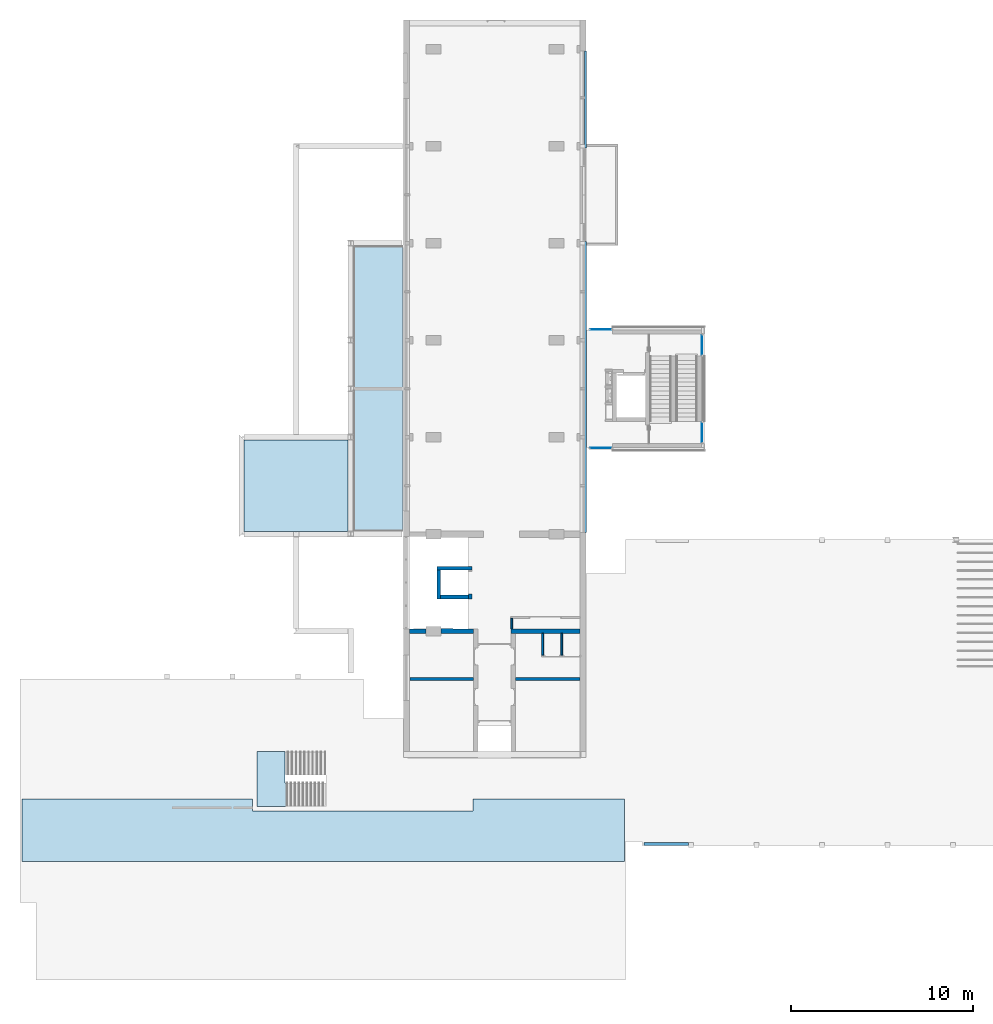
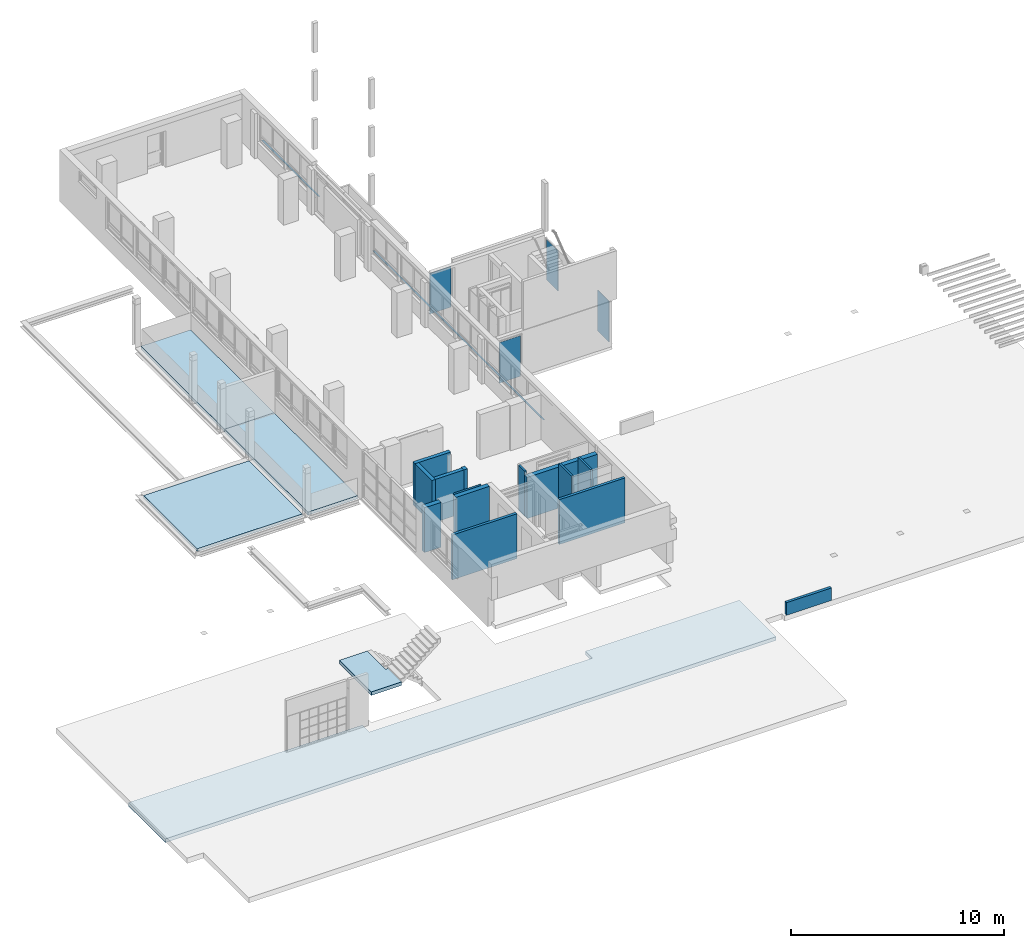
# One storey, part 3 of 22: 13 walls, 5 slabs, 4 plates, 2 beams, 5 elements without a shape of their own.
"""IFC2X3 building model written with IfcOpenShell, lengths in millimetres."""

from ifc_helpers import new_model, entity, si_unit, converted_unit, derived_unit, money_unit, direction, frame, origin_with_axes, place, context, subcontext, project, spatial, faceted_brep, source, transform, mapped, material, type_object, type_shapes, element, aggregate, save


model = new_model("IFC2X3")

# Units and contexts
model_context = context("Model", 3, precision=0.01, world=origin_with_axes(), true_north=direction((0.0, 1.0)))
body_context = subcontext(model_context, "Body", "Model", "MODEL_VIEW")
ifc_project = project(units=[si_unit("LENGTHUNIT", "METRE", prefix="MILLI"), si_unit("AREAUNIT", "SQUARE_METRE"), si_unit("VOLUMEUNIT", "CUBIC_METRE"), converted_unit("PLANEANGLEUNIT", "DEGREE", entity("IfcPlaneAngleMeasure", 0.0174532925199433), si_unit("PLANEANGLEUNIT", "RADIAN"), dimensions=[0, 0, 0, 0, 0, 0, 0]), money_unit("EUR"), converted_unit("TIMEUNIT", "Year", entity("IfcTimeMeasure", 31557600.0), si_unit("TIMEUNIT", "SECOND"), dimensions=[0, 0, 1, 0, 0, 0, 0]), si_unit("MASSUNIT", "GRAM", prefix="KILO"), si_unit("THERMODYNAMICTEMPERATUREUNIT", "DEGREE_CELSIUS"), si_unit("LUMINOUSINTENSITYUNIT", "LUMEN"), si_unit("ENERGYUNIT", "JOULE", prefix="MEGA"), derived_unit("THERMALCONDUCTANCEUNIT", [(si_unit("POWERUNIT", "WATT"), 1), (si_unit("LENGTHUNIT", "METRE"), -1), (si_unit("THERMODYNAMICTEMPERATUREUNIT", "KELVIN"), -1)]), derived_unit("SPECIFICHEATCAPACITYUNIT", [(si_unit("ENERGYUNIT", "JOULE"), 1), (si_unit("MASSUNIT", "GRAM", prefix="KILO"), -1), (si_unit("THERMODYNAMICTEMPERATUREUNIT", "KELVIN"), -1)]), derived_unit("MASSDENSITYUNIT", [(si_unit("MASSUNIT", "GRAM", prefix="KILO"), 1), (si_unit("VOLUMEUNIT", "CUBIC_METRE"), -1)])], contexts=[model_context])

# Site, building, storey
site_placement = place(None, origin_with_axes())
site = spatial("IfcSite", under=ifc_project, at=site_placement, Name="Site", CompositionType="ELEMENT")
building_placement = place(site_placement, origin_with_axes())
building = spatial("IfcBuilding", under=site, at=building_placement, Name="Naam gebouw", CompositionType="ELEMENT")
storey_placement = place(building_placement, frame((0.0, 0.0, 8690.0), z_axis=(0.0, 0.0, 1.0), x_axis=(1.0, 0.0, 0.0)))
storey = spatial("IfcBuildingStorey", under=building, at=storey_placement, Name="2e verdieping V", CompositionType="ELEMENT", Elevation=8690.0)

# Beams
ifc_material_1 = material(Name="Metaal - Aluminium")
beam_type = type_object("IfcBeamType", Name="Lekdorpel 107 x 49", PredefinedType="BEAM")
beam_1_placement = place(storey_placement, frame((30236.0, 49175.91242510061, 849.9999999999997), z_axis=(0.0, 0.0, 1.0), x_axis=(1.0, 0.0, 0.0)))
element("IfcBeam", 1, at=beam_1_placement, inside=storey, type_object=beam_type, material=ifc_material_1, Name="_Balk-x", ObjectType="BEAM", context=body_context, shape_type="Brep", body=[
    faceted_brep([(27.99999999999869, 0.0, -1.678199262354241), (27.99999999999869, 5329.999999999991, -1.678199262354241), (27.99999999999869, 5329.999999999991, -16.53589838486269), (27.99999999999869, 0.0, -16.53589838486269), (-77.00000000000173, 0.0, 16.83613371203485), (-77.00000000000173, 5329.999999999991, 16.83613371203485), (-77.00000000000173, 5329.999999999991, 28.51433297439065), (-74.99999999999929, 5329.999999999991, 28.51433297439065), (-74.99999999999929, 5329.999999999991, 18.51433297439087), (30.00000000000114, 5329.999999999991, 0.0), (30.00000000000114, 5329.999999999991, -19.99999999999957), (19.99999999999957, 5329.999999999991, -14.22649730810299), (19.99999999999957, 5329.999999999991, -11.91709623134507), (19.99999999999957, 0.0, -11.91709623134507), (19.99999999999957, 0.0, -14.22649730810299), (30.00000000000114, 0.0, -19.99999999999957), (30.00000000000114, 0.0, 0.0), (-74.99999999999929, 0.0, 18.51433297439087), (-74.99999999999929, 0.0, 28.51433297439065), (-77.00000000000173, 0.0, 28.51433297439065)], [[[0, 1, 2, 3]], [[4, 5, 1, 0]], [[2, 1, 5, 6, 7, 8, 9, 10, 11, 12]], [[3, 2, 12, 13]], [[4, 0, 3, 13, 14, 15, 16, 17, 18, 19]], [[19, 6, 5, 4]], [[18, 7, 6, 19]], [[17, 8, 7, 18]], [[16, 9, 8, 17]], [[15, 10, 9, 16]], [[14, 11, 10, 15]], [[13, 12, 11, 14]]]),
])
beam_2_placement = place(storey_placement, frame((30236.0, 28055.91242510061, 849.9999999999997), z_axis=(0.0, 0.0, 1.0), x_axis=(1.0, 0.0, 0.0)))
element("IfcBeam", 2, at=beam_2_placement, inside=storey, type_object=beam_type, material=ifc_material_1, Name="_Balk-x", ObjectType="BEAM", context=body_context, shape_type="Brep", body=[
    faceted_brep([(27.99999999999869, 0.0, -1.678199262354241), (27.99999999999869, 15989.99999999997, -1.678199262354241), (27.99999999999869, 15989.99999999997, -16.53589838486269), (27.99999999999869, 0.0, -16.53589838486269), (-77.00000000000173, 0.0, 16.83613371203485), (-77.00000000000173, 15989.99999999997, 16.83613371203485), (-77.00000000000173, 15989.99999999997, 28.51433297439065), (-74.99999999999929, 15989.99999999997, 28.51433297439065), (-74.99999999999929, 15989.99999999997, 18.51433297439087), (30.00000000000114, 15989.99999999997, 0.0), (30.00000000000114, 15989.99999999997, -19.99999999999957), (19.99999999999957, 15989.99999999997, -14.22649730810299), (19.99999999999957, 15989.99999999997, -11.91709623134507), (19.99999999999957, 0.0, -11.91709623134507), (19.99999999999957, 0.0, -14.22649730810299), (30.00000000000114, 0.0, -19.99999999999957), (30.00000000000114, 0.0, 0.0), (-74.99999999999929, 0.0, 18.51433297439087), (-74.99999999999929, 0.0, 28.51433297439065), (-77.00000000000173, 0.0, 28.51433297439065)], [[[0, 1, 2, 3]], [[4, 5, 1, 0]], [[2, 1, 5, 6, 7, 8, 9, 10, 11, 12]], [[3, 2, 12, 13]], [[4, 0, 3, 13, 14, 15, 16, 17, 18, 19]], [[19, 6, 5, 4]], [[18, 7, 6, 19]], [[17, 8, 7, 18]], [[16, 9, 8, 17]], [[15, 10, 9, 16]], [[14, 11, 10, 15]], [[13, 12, 11, 14]]]),
])

# Curtain wall, plate
curtain_wall_type = type_object("IfcCurtainWallType", Name="Curtain Wall:21_CW_alu kozijn 070x065", PredefinedType="NOTDEFINED")
curtain_wall_1_placement = place(storey_placement, frame((0.0, 0.0, -8690.0), z_axis=(0.0, 0.0, 1.0), x_axis=(1.0, 0.0, 0.0)))
curtain_wall_1 = element("IfcCurtainWall", 3, at=curtain_wall_1_placement, inside=storey, type_object=curtain_wall_type, Name="Curtain Wall:21_CW_alu kozijn 070x065", ObjectType="Curtain Wall:21_CW_alu kozijn 070x065")
ifc_material_2 = material(Name="Glass")
plate_type_1 = type_object("IfcPlateType", Name="System Panel:31_CWP_alu glas_2", PredefinedType="CURTAIN_PANEL")
shared_shape_1 = source(origin_with_axes(), body_context, "Body", "Brep", [
    faceted_brep([(540.0000000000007, -12.00000000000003, 0.0), (540.0000000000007, 11.99999999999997, 0.0), (540.0000000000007, 11.99999999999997, 2330.000000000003), (540.0000000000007, -12.00000000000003, 2330.000000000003), (-540.0000000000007, -11.99999999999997, 0.0), (-540.0000000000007, 12.00000000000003, 0.0), (-540.0000000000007, 12.00000000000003, 2330.000000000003), (-540.0000000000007, -11.99999999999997, 2330.000000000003)], [[[0, 1, 2, 3]], [[0, 4, 5, 1]], [[1, 5, 6, 2]], [[3, 2, 6, 7]], [[4, 0, 3, 7]], [[5, 4, 7, 6]]]),
])
type_shapes(plate_type_1, [shared_shape_1])
plate_1_placement = place(curtain_wall_1_placement, frame((36612.50000004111, 33535.912426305, 8760.000000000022), z_axis=(0.0, 0.0, 1.0), x_axis=(0.0, -1.0, 0.0)))
plate_1 = element("IfcPlate", 4, at=plate_1_placement, type_object=plate_type_1, material=ifc_material_2, Name="System Panel:31_CWP_alu glas_2", ObjectType="CURTAIN_PANEL", context=body_context, shape_type="MappedRepresentation", body=[
    mapped(shared_shape_1, transform((0.0, 0.0, 0.0))),
])
aggregate(curtain_wall_1, [plate_1])

curtain_wall_2_placement = place(storey_placement, frame((0.0, 0.0, -8690.0), z_axis=(0.0, 0.0, 1.0), x_axis=(1.0, 0.0, 0.0)))
curtain_wall_2 = element("IfcCurtainWall", 5, at=curtain_wall_2_placement, inside=storey, type_object=curtain_wall_type, Name="Curtain Wall:21_CW_alu kozijn 070x065", ObjectType="Curtain Wall:21_CW_alu kozijn 070x065")
plate_2_placement = place(curtain_wall_2_placement, frame((36612.50000001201, 38355.91242625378, 8760.000000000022), z_axis=(0.0, 0.0, 1.0), x_axis=(0.0, -1.0, 0.0)))
plate_2 = element("IfcPlate", 6, at=plate_2_placement, type_object=plate_type_1, material=ifc_material_2, Name="System Panel:31_CWP_alu glas_2", ObjectType="CURTAIN_PANEL", context=body_context, shape_type="MappedRepresentation", body=[
    mapped(shared_shape_1, transform((0.0, 0.0, 0.0))),
])
aggregate(curtain_wall_2, [plate_2])

curtain_wall_3_placement = place(storey_placement, frame((0.0, 0.0, -8690.0), z_axis=(0.0, 0.0, 1.0), x_axis=(1.0, 0.0, 0.0)))
curtain_wall_3 = element("IfcCurtainWall", 7, at=curtain_wall_3_placement, inside=storey, type_object=curtain_wall_type, Name="Curtain Wall:21_CW_alu kozijn 070x065", ObjectType="Curtain Wall:21_CW_alu kozijn 070x065")
plate_type_2 = type_object("IfcPlateType", Name="System Panel:31_CWP_alu glas_2", PredefinedType="CURTAIN_PANEL")
shared_shape_2 = source(origin_with_axes(), body_context, "Body", "Brep", [
    faceted_brep([(577.0051413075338, -12.00000000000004, 0.0), (577.0051413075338, 11.99999999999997, 0.0), (577.0051413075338, 11.99999999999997, 2330.000000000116), (577.0051413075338, -12.00000000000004, 2330.000000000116), (-577.0051413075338, -11.99999999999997, 0.0), (-577.0051413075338, 12.00000000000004, 0.0), (-577.0051413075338, 12.00000000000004, 2330.000000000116), (-577.0051413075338, -11.99999999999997, 2330.000000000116)], [[[0, 1, 2, 3]], [[0, 4, 5, 1]], [[1, 5, 6, 2]], [[3, 2, 6, 7]], [[4, 0, 3, 7]], [[5, 4, 7, 6]]]),
])
type_shapes(plate_type_2, [shared_shape_2])
plate_3_placement = place(curtain_wall_3_placement, frame((31038.00514136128, 39212.4124263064, 8760.000000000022), z_axis=(0.0, 0.0, 1.0), x_axis=(-1.0, 0.0, 0.0)))
plate_3 = element("IfcPlate", 8, at=plate_3_placement, type_object=plate_type_2, material=ifc_material_2, Name="System Panel:31_CWP_alu glas_2", ObjectType="CURTAIN_PANEL", context=body_context, shape_type="MappedRepresentation", body=[
    mapped(shared_shape_2, transform((0.0, 0.0, 0.0))),
])
aggregate(curtain_wall_3, [plate_3])

curtain_wall_4_placement = place(storey_placement, frame((0.0, 0.0, -8690.0), z_axis=(0.0, 0.0, 1.0), x_axis=(1.0, 0.0, 0.0)))
curtain_wall_4 = element("IfcCurtainWall", 9, at=curtain_wall_4_placement, inside=storey, type_object=curtain_wall_type, Name="Curtain Wall:21_CW_alu kozijn 070x065", ObjectType="Curtain Wall:21_CW_alu kozijn 070x065")
plate_type_3 = type_object("IfcPlateType", Name="System Panel:31_CWP_alu glas_2", PredefinedType="CURTAIN_PANEL")
type_shapes(plate_type_3, [shared_shape_2])
plate_4_placement = place(curtain_wall_4_placement, frame((31038.00514136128, 32679.41242631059, 8760.000000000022), z_axis=(0.0, 0.0, 1.0), x_axis=(-1.0, 0.0, 0.0)))
plate_4 = element("IfcPlate", 10, at=plate_4_placement, type_object=plate_type_3, material=ifc_material_2, Name="System Panel:31_CWP_alu glas_2", ObjectType="CURTAIN_PANEL", context=body_context, shape_type="MappedRepresentation", body=[
    mapped(shared_shape_2, transform((0.0, 0.0, 0.0))),
])
aggregate(curtain_wall_4, [plate_4])

# Slab
ifc_material_3 = material(Name="ALG - CONSTRUCTIEF VLOER")
slab_type_1 = type_object("IfcSlabType", Name="ALG Vloer 200", PredefinedType="NOTDEFINED")
slab_1_placement = place(storey_placement, frame((12155.50051848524, 12994.60803964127, 710.0000000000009), z_axis=(0.0, 0.0, 1.0), x_axis=(1.0, 0.0, 0.0)))
element("IfcSlab", 11, at=slab_1_placement, inside=storey, type_object=slab_type_1, material=ifc_material_3, Name="_Vloer-x", PredefinedType="NOTDEFINED", context=body_context, shape_type="Brep", body=[
    faceted_brep([(0.0, 0.0, 0.0), (0.0, 0.0, -199.9999999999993), (1643.1, 0.0, -199.9999999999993), (1643.1, 0.0, 0.0), (0.0, 3001.31222034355, 0.0), (0.0, 3001.31222034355, -199.9999999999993), (1514.999999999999, 3001.31222034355, -199.9999999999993), (1514.999999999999, 1279.999999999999, -199.9999999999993), (1643.1, 1279.999999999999, -199.9999999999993), (1643.1, 1279.999999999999, 0.0), (1514.999999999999, 1279.999999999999, 0.0), (1514.999999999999, 3001.31222034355, 0.0)], [[[0, 1, 2, 3]], [[4, 5, 1, 0]], [[2, 1, 5, 6, 7, 8]], [[3, 2, 8, 9]], [[4, 0, 3, 9, 10, 11]], [[11, 6, 5, 4]], [[10, 7, 6, 11]], [[9, 8, 7, 10]]]),
])

# Roof, slab
roof_placement = place(storey_placement, frame((0.0, 0.0, -8690.0), z_axis=(0.0, 0.0, 1.0), x_axis=(1.0, 0.0, 0.0)))
roof = element("IfcRoof", 12, at=roof_placement, inside=storey, Name="Basic Roof:NLRS_27_RO_dakleer iso 164 2-2-160_gen", ObjectType="Basic Roof:NLRS_27_RO_dakleer iso 164 2-2-160_gen", ShapeType="NOTDEFINED")
ifc_material_4 = material(Name="IFC Building Material")
slab_type_2 = type_object("IfcSlabType", Name="IFC Building Material 164", PredefinedType="ROOF")
slab_2_placement = place(roof_placement, frame((17142.0000000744, 30620.91242626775, 8530.000000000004), z_axis=(0.0, 0.0, 1.0), x_axis=(-1.0, 0.0, 0.0)))
slab_2 = element("IfcSlab", 13, at=slab_2_placement, type_object=slab_type_2, material=ifc_material_4, Name="Basic Roof:NLRS_27_RO_dakleer iso 164 2-2-160_gen", PredefinedType="ROOF", context=body_context, shape_type="Brep", body=[
    faceted_brep([(2.91038304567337e-08, -2515.00000001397, 163.9999999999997), (2.91038304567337e-08, -2515.00000001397, 0.0), (5700.000000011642, -2515.00000001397, 0.0), (5700.000000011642, -2515.00000001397, 163.9999999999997), (2.91038304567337e-08, 2515.00000001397, 163.9999999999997), (2.91038304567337e-08, 2515.00000001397, 0.0), (5700.000000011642, 2515.00000001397, 0.0), (5700.000000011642, 2515.00000001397, 163.9999999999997)], [[[0, 1, 2, 3]], [[4, 5, 1, 0]], [[2, 1, 5, 6]], [[3, 2, 6, 7]], [[4, 0, 3, 7]], [[7, 6, 5, 4]]]),
])
aggregate(roof, [slab_2])

# Slabs
ifc_material_5 = material(Name="beton")
slab_type_3 = type_object("IfcSlabType", Name="Floor:23_3B_beton 170mm + 50mm metal deck", PredefinedType="FLOOR")
slab_3_placement = place(storey_placement, frame((20141.00000002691, 43795.91242631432, 0.0), z_axis=(0.0, 0.0, 1.0), x_axis=(1.0, 0.0, 0.0)))
element("IfcSlab", 14, at=slab_3_placement, inside=storey, type_object=slab_type_3, material=ifc_material_5, Name="Floor:23_3B_beton 170mm + 50mm metal deck", PredefinedType="FLOOR", context=body_context, shape_type="Brep", body=[
    faceted_brep([(0.0, 0.0, 0.0), (0.0, 0.0, -169.9999999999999), (-2698.999999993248, 0.0, -169.9999999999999), (-2698.999999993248, 0.0, 0.0), (-2.91038304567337e-08, -7845.000000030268, 0.0), (-2.91038304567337e-08, -7845.000000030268, -169.9999999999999), (-2698.999999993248, -7844.99999997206, -169.9999999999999), (-2698.999999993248, -7844.99999997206, 0.0)], [[[0, 1, 2, 3]], [[4, 5, 1, 0]], [[2, 1, 5, 6]], [[3, 2, 6, 7]], [[4, 0, 3, 7]], [[7, 6, 5, 4]]]),
])
slab_4_placement = place(storey_placement, frame((20140.9999999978, 35950.91242628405, 0.0), z_axis=(0.0, 0.0, 1.0), x_axis=(1.0, 0.0, 0.0)))
element("IfcSlab", 15, at=slab_4_placement, inside=storey, type_object=slab_type_3, material=ifc_material_5, Name="Floor:23_3B_beton 170mm + 50mm metal deck", PredefinedType="FLOOR", context=body_context, shape_type="Brep", body=[
    faceted_brep([(0.0, 0.0, 0.0), (0.0, 0.0, -169.9999999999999), (-2698.999999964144, 5.820766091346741e-08, -169.9999999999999), (-2698.999999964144, 5.820766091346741e-08, 0.0), (2.91038304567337e-08, -7844.999999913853, 0.0), (2.91038304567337e-08, -7844.999999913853, -169.9999999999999), (-2698.999999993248, -7844.99999997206, -169.9999999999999), (-2698.999999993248, -7844.99999997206, 0.0)], [[[0, 1, 2, 3]], [[4, 5, 1, 0]], [[2, 1, 5, 6]], [[3, 2, 6, 7]], [[4, 0, 3, 7]], [[7, 6, 5, 4]]]),
])
slab_type_4 = type_object("IfcSlabType", Name="ALG - CONSTRUCTIEF VLOER 210", PredefinedType="NOTDEFINED")
slab_5_placement = place(storey_placement, frame((-770.0306878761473, 9945.912425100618, -1339.999999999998), z_axis=(0.0, 0.0, 1.0), x_axis=(1.0, 0.0, 0.0)))
element("IfcSlab", 16, at=slab_5_placement, inside=storey, type_object=slab_type_4, material=ifc_material_3, Name="_Vloer-x", PredefinedType="NOTDEFINED", context=body_context, shape_type="Brep", body=[
    faceted_brep([(0.0, 0.0, 0.0), (0.0, 0.0, -210.0), (33115.50094795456, 0.0, -210.0), (33115.50094795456, 0.0, 0.0), (0.0, 3450.000000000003, 0.0), (0.0, 3450.000000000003, -210.0), (12675.53120636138, 3450.000000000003, -210.0), (12675.53120636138, 2798.695614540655, -210.0), (24773.03068787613, 2798.695614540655, -210.0), (24773.03068787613, 3450.000000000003, -210.0), (33115.50094795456, 3450.000000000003, -210.0), (33115.50094795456, 3450.000000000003, 0.0), (24773.03068787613, 3450.000000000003, 0.0), (24773.03068787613, 2798.695614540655, 0.0), (12675.53120636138, 2798.695614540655, 0.0), (12675.53120636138, 3450.000000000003, 0.0)], [[[0, 1, 2, 3]], [[4, 5, 1, 0]], [[2, 1, 5, 6, 7, 8, 9, 10]], [[3, 2, 10, 11]], [[4, 0, 3, 11, 12, 13, 14, 15]], [[15, 6, 5, 4]], [[14, 7, 6, 15]], [[13, 8, 7, 14]], [[12, 9, 8, 13]], [[11, 10, 9, 12]]]),
])

# Walls
ifc_material_6 = material(Name="ALG - CONSTRUCTIEF")
wall_type_1 = type_object("IfcWallType", Name="ALG - CONSTRUCTIEF 150", PredefinedType="NOTDEFINED")
wall_1_placement = place(storey_placement, frame((24046.0, 19910.73756198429, -99.99999999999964), z_axis=(0.0, 0.0, 1.0), x_axis=(-1.0, 0.0, 0.0)))
element("IfcWall", 17, at=wall_1_placement, inside=storey, type_object=wall_type_1, material=ifc_material_6, Name="_Wand-x", context=body_context, shape_type="Brep", body=[
    faceted_brep([(3501.000000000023, -149.9999999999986, 99.99999999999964), (3501.000000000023, -149.9999999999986, 2670.000000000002), (0.0, -149.9999999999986, 2670.000000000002), (0.0, -149.9999999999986, 99.99999999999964), (3501.000000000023, 0.0, 99.99999999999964), (3501.000000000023, 0.0, 2670.000000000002), (0.0, 0.0, 2670.000000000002), (0.0, 0.0, 99.99999999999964)], [[[0, 1, 2, 3]], [[4, 5, 1, 0]], [[5, 6, 2, 1]], [[3, 2, 6, 7]], [[4, 0, 3, 7]], [[7, 6, 5, 4]]]),
])
wall_2_placement = place(storey_placement, frame((29906.0, 19910.73756198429, 0.0), z_axis=(0.0, 0.0, 1.0), x_axis=(-1.0, 0.0, 0.0)))
element("IfcWall", 18, at=wall_2_placement, inside=storey, type_object=wall_type_1, material=ifc_material_6, Name="_Wand-x", context=body_context, shape_type="Brep", body=[
    faceted_brep([(3559.999999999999, -149.9999999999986, 0.0), (3559.999999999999, -149.9999999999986, 2570.000000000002), (0.0, -149.9999999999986, 2570.000000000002), (0.0, -149.9999999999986, 0.0), (3559.999999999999, 0.0, 0.0), (3559.999999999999, 0.0, 2570.000000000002), (0.0, 0.0, 2570.000000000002), (0.0, 0.0, 0.0)], [[[0, 1, 2, 3]], [[4, 5, 1, 0]], [[5, 6, 2, 1]], [[3, 2, 6, 7]], [[3, 7, 4, 0]], [[7, 6, 5, 4]]]),
])
wall_type_2 = type_object("IfcWallType", Name="ALG - CONSTRUCTIEF 100", PredefinedType="NOTDEFINED")
wall_3_placement = place(storey_placement, frame((26096.0, 22750.91242510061, 0.0), z_axis=(0.0, 0.0, 1.0), x_axis=(0.0, 1.0, 0.0)))
element("IfcWall", 19, at=wall_3_placement, inside=storey, type_object=wall_type_2, material=ifc_material_6, Name="_Wand-x", context=body_context, shape_type="Brep", body=[
    faceted_brep([(574.9999999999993, -99.99999999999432, 2570.000000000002), (574.9999999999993, 0.0, 2570.000000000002), (0.0, 0.0, 2570.000000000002), (0.0, -100.0000000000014, 2570.000000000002), (574.9999999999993, -99.99999999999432, 0.0), (574.9999999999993, 0.0, 0.0), (0.0, 0.0, 0.0), (0.0, -100.0000000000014, 0.0)], [[[0, 1, 2, 3]], [[1, 0, 4, 5]], [[1, 5, 6, 2]], [[7, 3, 2, 6]], [[4, 0, 3, 7]], [[5, 4, 7, 6]]]),
])
wall_4_placement = place(storey_placement, frame((27895.00002228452, 22500.9108279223, 0.0), z_axis=(0.0, 0.0, 1.0), x_axis=(0.0, -1.0, 0.0)))
element("IfcWall", 20, at=wall_4_placement, inside=storey, type_object=wall_type_2, material=ifc_material_6, Name="_Wand-x", context=body_context, shape_type="Brep", body=[
    faceted_brep([(0.0, -100.0000000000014, 0.0), (0.0, -100.0000000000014, 2570.000000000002), (0.0, 0.0, 2570.000000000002), (0.0, 0.0, 0.0), (1200.204171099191, -100.0000000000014, 0.0), (1200.204171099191, -100.0000000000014, 2570.000000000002), (1200.194638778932, 0.0, 2570.000000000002), (1200.194638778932, 0.0, 0.0)], [[[0, 1, 2, 3]], [[4, 5, 1, 0]], [[5, 6, 2, 1]], [[3, 2, 6, 7]], [[3, 7, 4, 0]], [[7, 6, 5, 4]]]),
])
wall_5_placement = place(storey_placement, frame((28945.00000000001, 22501.11659619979, 0.0), z_axis=(0.0, 0.0, 1.0), x_axis=(0.0, -1.0, 0.0)))
element("IfcWall", 21, at=wall_5_placement, inside=storey, type_object=wall_type_2, material=ifc_material_6, Name="_Wand-x", context=body_context, shape_type="Brep", body=[
    faceted_brep([(0.0, -100.0000000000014, 0.0), (0.0, -100.0000000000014, 2570.000000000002), (0.0, 0.0, 2570.000000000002), (0.0, 0.0, 0.0), (1200.204171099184, -100.0000000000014, 0.0), (1200.204171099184, -100.0000000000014, 2570.000000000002), (1200.204171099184, 0.0, 2570.000000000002), (1200.204171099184, 0.0, 0.0)], [[[0, 1, 2, 3]], [[4, 5, 1, 0]], [[5, 6, 2, 1]], [[3, 2, 6, 7]], [[0, 3, 7, 4]], [[7, 6, 5, 4]]]),
])
wall_type_3 = type_object("IfcWallType", Name="ALG - CONSTRUCTIEF 200", PredefinedType="NOTDEFINED")
wall_6_placement = place(storey_placement, frame((22125.0, 26080.91242510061, 0.0), z_axis=(0.0, 0.0, 1.0), x_axis=(0.0, -1.0, 0.0)))
element("IfcWall", 22, at=wall_6_placement, inside=storey, type_object=wall_type_3, material=ifc_material_6, Name="_Wand-x", context=body_context, shape_type="Brep", body=[
    faceted_brep([(100.0000000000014, -100.0000000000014, 0.0), (100.000000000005, -100.0000000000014, 2460.000000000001), (100.000000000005, 100.0000000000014, 2460.000000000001), (100.0000000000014, 100.0000000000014, 0.0), (1684.999974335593, -100.0000000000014, 0.0), (1684.999974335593, -100.0000000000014, 2460.000000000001), (1684.999974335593, 100.0000000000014, 2460.000000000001), (1684.999974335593, 100.0000000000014, 0.0)], [[[0, 1, 2, 3]], [[4, 5, 1, 0]], [[5, 6, 2, 1]], [[3, 2, 6, 7]], [[4, 0, 3, 7]], [[7, 6, 5, 4]]]),
])
wall_7_placement = place(storey_placement, frame((22125.0, 26080.91242510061, 0.0), z_axis=(0.0, 0.0, 1.0), x_axis=(1.0, 0.0, 0.0)))
element("IfcWall", 23, at=wall_7_placement, inside=storey, type_object=wall_type_3, material=ifc_material_6, Name="_Wand-x", context=body_context, shape_type="Brep", body=[
    faceted_brep([(-100.0000000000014, 100.0000000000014, 0.0), (-100.0000000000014, 100.0000000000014, 2460.000000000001), (1830.444270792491, 100.0000000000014, 2459.999999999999), (1830.444270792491, 100.0000000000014, 0.0), (-100.0000000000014, -100.0000000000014, 0.0), (-100.0000000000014, -100.0000000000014, 2460.000000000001), (1830.444270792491, -100.0000000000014, 2459.999999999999), (1830.444270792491, -100.0000000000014, 0.0)], [[[0, 1, 2, 3]], [[4, 5, 1, 0]], [[5, 6, 2, 1]], [[3, 2, 6, 7]], [[4, 0, 3, 7]], [[7, 6, 5, 4]]]),
])
wall_8_placement = place(storey_placement, frame((23855.44427079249, 24395.91245076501, 0.0), z_axis=(0.0, 0.0, 1.0), x_axis=(0.0, 1.0, 0.0)))
element("IfcWall", 24, at=wall_8_placement, inside=storey, type_object=wall_type_3, material=ifc_material_6, Name="_Wand-x", context=body_context, shape_type="Brep", body=[
    faceted_brep([(260.1245461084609, 100.0000000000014, 0.0), (260.1245461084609, 100.0000000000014, 2460.000000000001), (260.1245461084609, -100.0000000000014, 2460.000000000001), (260.1245461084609, -100.0000000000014, 0.0), (0.0, 100.0000000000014, 0.0), (0.0, 100.0000000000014, 2460.000000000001), (0.0, -100.0000000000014, 2460.000000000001), (0.0, -100.0000000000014, 0.0)], [[[0, 1, 2, 3]], [[4, 5, 1, 0]], [[5, 6, 2, 1]], [[3, 2, 6, 7]], [[7, 4, 0, 3]], [[7, 6, 5, 4]]]),
])
wall_9_placement = place(storey_placement, frame((22125.0, 24495.91245076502, 0.0), z_axis=(0.0, 0.0, 1.0), x_axis=(1.0, 0.0, 0.0)))
element("IfcWall", 25, at=wall_9_placement, inside=storey, type_object=wall_type_3, material=ifc_material_6, Name="_Wand-x", context=body_context, shape_type="Brep", body=[
    faceted_brep([(100.0000000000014, -100.0000000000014, 2460.000000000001), (1630.444270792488, -100.0000000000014, 2460.000000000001), (1630.444270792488, 100.0000000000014, 2460.000000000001), (100.0000000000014, 100.0000000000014, 2460.000000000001), (100.0000000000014, -100.0000000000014, 0.0), (1630.444270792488, -100.0000000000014, 0.0), (1630.444270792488, 100.0000000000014, 0.0), (100.0000000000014, 100.0000000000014, 0.0)], [[[0, 1, 2, 3]], [[4, 5, 1, 0]], [[5, 6, 2, 1]], [[3, 2, 6, 7]], [[0, 3, 7, 4]], [[7, 6, 5, 4]]]),
])
wall_type_4 = type_object("IfcWallType", Name="ALG - CONSTRUCTIEF 250", PredefinedType="NOTDEFINED")
wall_10_placement = place(storey_placement, frame((22229.71616215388, 22630.10671174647, 0.0), z_axis=(0.0, 0.0, 1.0), x_axis=(0.9999973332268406, -0.002309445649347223, 0.0)))
element("IfcWall", 26, at=wall_10_placement, inside=storey, type_object=wall_type_4, material=ifc_material_6, Name="_Wand-x", context=body_context, shape_type="Brep", body=[
    faceted_brep([(1816.000000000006, 125.0000000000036, 0.0), (15.99519979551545, 125.0, 0.0), (15.99519979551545, 124.9999999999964, 2670.000000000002), (1519.999210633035, 125.0000000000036, 2670.000000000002), (1519.999210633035, 125.0000000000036, 2570.000000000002), (1816.000000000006, 125.0000000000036, 2570.000000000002), (1816.000000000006, -125.0, 0.0), (16.57256274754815, -125.0, 0.0), (16.57256274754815, -125.0, 2570.000000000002), (16.00480019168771, 120.842997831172, 2570.000000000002), (16.00480019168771, 120.842997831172, 2670.000000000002), (1520.00078936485, 124.3164040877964, 2670.000000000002), (1520.00078936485, 124.3164040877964, 2570.000000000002), (1816.000000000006, -125.0, 2570.000000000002)], [[[0, 1, 2, 3, 4, 5]], [[6, 7, 1, 0]], [[2, 1, 7, 8, 9, 10]], [[2, 10, 11, 3]], [[11, 12, 4, 3]], [[12, 9, 8, 13, 5, 4]], [[6, 0, 5, 13]], [[13, 8, 7, 6]], [[9, 12, 11, 10]]]),
])
wall_11_placement = place(storey_placement, frame((20536.0, 22625.91242510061, 0.0), z_axis=(0.0, 0.0, 1.0), x_axis=(1.0, 0.0, 0.0)))
element("IfcWall", 27, at=wall_11_placement, inside=storey, type_object=wall_type_4, material=ifc_material_6, Name="_Wand-x", context=body_context, shape_type="Brep", body=[
    faceted_brep([(890.0000000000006, 125.0, 0.0), (0.0, 125.0, 0.0), (0.0, 125.0000000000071, 2570.000000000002), (890.0000000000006, 125.0000000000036, 2570.000000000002), (890.0000000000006, -125.0, 0.0), (0.0, -125.0, 0.0), (0.0, -125.0, 2570.000000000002), (890.0000000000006, -125.0, 2570.000000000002)], [[[0, 1, 2, 3]], [[4, 5, 1, 0]], [[1, 5, 6, 2]], [[2, 6, 7, 3]], [[4, 0, 3, 7]], [[5, 4, 7, 6]]]),
])
wall_12_placement = place(storey_placement, frame((26346.0, 22625.91242510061, 0.0), z_axis=(0.0, 0.0, 1.0), x_axis=(1.0, 0.0, 0.0)))
element("IfcWall", 28, at=wall_12_placement, inside=storey, type_object=wall_type_4, material=ifc_material_6, Name="_Wand-x", context=body_context, shape_type="Brep", body=[
    faceted_brep([(-246.0000000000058, -125.0, 2360.000000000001), (3559.999999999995, -125.0, 2360.000000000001), (3559.999999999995, 125.0, 2360.000000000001), (-246.0000000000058, 125.0, 2360.000000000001), (-250.0, 125.0, 2360.000000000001), (-250.0, -125.0, 2360.000000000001), (-250.0, -125.0, 0.0), (3559.999999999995, -125.0, 0.0), (3559.999999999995, 125.0, 0.0), (-250.0, 125.0, 0.0)], [[[0, 1, 2, 3, 4, 5]], [[6, 7, 1, 0, 5]], [[7, 8, 2, 1]], [[3, 2, 8, 9, 4]], [[6, 5, 4, 9]], [[9, 8, 7, 6]]]),
])
wall_type_5 = type_object("IfcWallType", Name="ALG - CONSTRUCTIEF 146", PredefinedType="NOTDEFINED")
wall_13_placement = place(storey_placement, frame((35862.5, 10990.91242510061, -1040.0), z_axis=(0.0, 0.0, 1.0), x_axis=(-1.0, 0.0, 0.0)))
element("IfcWall", 29, at=wall_13_placement, inside=storey, type_object=wall_type_5, material=ifc_material_6, Name="_Wand-x", context=body_context, shape_type="Brep", body=[
    faceted_brep([(0.0, 146.0000000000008, 0.0), (2439.999999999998, 145.999999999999, 0.0), (2439.999999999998, 0.0, 0.0), (0.0, 0.0, 0.0), (0.0, 146.0000000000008, 720.0000000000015), (2439.999999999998, 146.0000000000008, 720.0000000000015), (2439.999999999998, 0.0, 720.0000000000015), (0.0, 0.0, 720.0000000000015)], [[[0, 1, 2, 3]], [[4, 5, 1, 0]], [[2, 1, 5, 6]], [[3, 2, 6, 7]], [[4, 0, 3, 7]], [[7, 6, 5, 4]]]),
])

save(model, "model.ifc")
